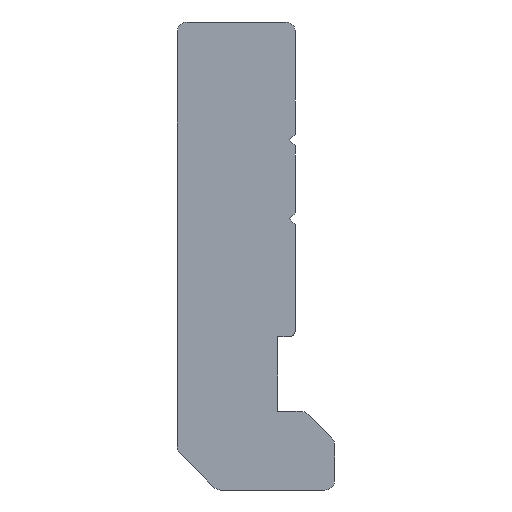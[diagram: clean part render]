
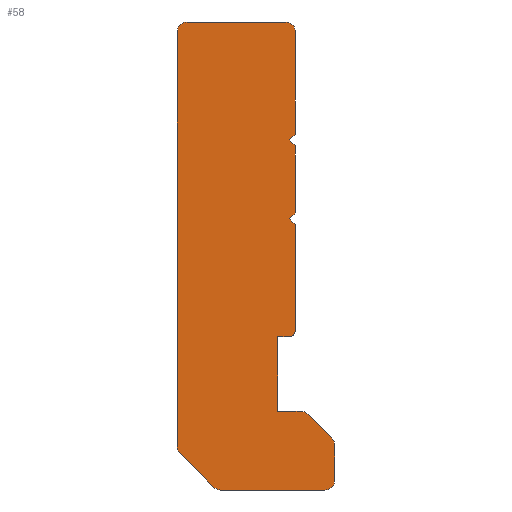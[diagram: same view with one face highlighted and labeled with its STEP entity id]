
A CAD part, left-side view. The second image highlights one B-rep face of the part: STEP entity #58.
In plain terms, the highlighted planar face has unit normal (-1, 0, 0).
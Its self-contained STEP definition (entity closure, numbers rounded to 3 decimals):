
#58=ADVANCED_FACE('',(#131),#132,.T.);
#131=FACE_OUTER_BOUND('',#216,.T.);
#132=PLANE('',#217);
#216=EDGE_LOOP('',(#315,#316,#317,#318,#319,#320,#321,#322,#323,#324,#325,#326,#327,#328,#329,#330,#331,#332,#333,#334,#335,#336,#337,#338));
#217=AXIS2_PLACEMENT_3D('',#339,#340,#341);
#315=ORIENTED_EDGE('',*,*,#551,.T.);
#316=ORIENTED_EDGE('',*,*,#552,.T.);
#317=ORIENTED_EDGE('',*,*,#548,.T.);
#318=ORIENTED_EDGE('',*,*,#553,.T.);
#319=ORIENTED_EDGE('',*,*,#554,.T.);
#320=ORIENTED_EDGE('',*,*,#555,.T.);
#321=ORIENTED_EDGE('',*,*,#556,.T.);
#322=ORIENTED_EDGE('',*,*,#557,.T.);
#323=ORIENTED_EDGE('',*,*,#543,.T.);
#324=ORIENTED_EDGE('',*,*,#558,.T.);
#325=ORIENTED_EDGE('',*,*,#559,.T.);
#326=ORIENTED_EDGE('',*,*,#560,.T.);
#327=ORIENTED_EDGE('',*,*,#561,.T.);
#328=ORIENTED_EDGE('',*,*,#562,.T.);
#329=ORIENTED_EDGE('',*,*,#563,.T.);
#330=ORIENTED_EDGE('',*,*,#564,.T.);
#331=ORIENTED_EDGE('',*,*,#565,.T.);
#332=ORIENTED_EDGE('',*,*,#566,.T.);
#333=ORIENTED_EDGE('',*,*,#567,.T.);
#334=ORIENTED_EDGE('',*,*,#568,.T.);
#335=ORIENTED_EDGE('',*,*,#533,.T.);
#336=ORIENTED_EDGE('',*,*,#569,.T.);
#337=ORIENTED_EDGE('',*,*,#538,.T.);
#338=ORIENTED_EDGE('',*,*,#570,.T.);
#339=CARTESIAN_POINT('',(0.,4.6,-5.593));
#340=DIRECTION('',(-1.0,0.0,0.0));
#341=DIRECTION('',(0.0,-1.0,0.0));
#533=EDGE_CURVE('',#634,#632,#635,.T.);
#538=EDGE_CURVE('',#643,#641,#644,.T.);
#543=EDGE_CURVE('',#652,#650,#653,.T.);
#548=EDGE_CURVE('',#661,#659,#662,.T.);
#551=EDGE_CURVE('',#665,#666,#667,.T.);
#552=EDGE_CURVE('',#666,#661,#668,.T.);
#553=EDGE_CURVE('',#659,#669,#670,.T.);
#554=EDGE_CURVE('',#669,#671,#672,.T.);
#555=EDGE_CURVE('',#671,#673,#674,.T.);
#556=EDGE_CURVE('',#673,#675,#676,.T.);
#557=EDGE_CURVE('',#675,#652,#677,.T.);
#558=EDGE_CURVE('',#650,#678,#679,.T.);
#559=EDGE_CURVE('',#678,#680,#681,.T.);
#560=EDGE_CURVE('',#680,#682,#683,.T.);
#561=EDGE_CURVE('',#682,#684,#685,.T.);
#562=EDGE_CURVE('',#684,#686,#687,.T.);
#563=EDGE_CURVE('',#686,#688,#689,.T.);
#564=EDGE_CURVE('',#688,#690,#691,.T.);
#565=EDGE_CURVE('',#690,#692,#693,.T.);
#566=EDGE_CURVE('',#692,#694,#695,.T.);
#567=EDGE_CURVE('',#694,#696,#697,.T.);
#568=EDGE_CURVE('',#696,#634,#698,.T.);
#569=EDGE_CURVE('',#632,#643,#699,.T.);
#570=EDGE_CURVE('',#641,#665,#700,.T.);
#632=VERTEX_POINT('',#779);
#634=VERTEX_POINT('',#782);
#635=LINE('',#783,#784);
#641=VERTEX_POINT('',#792);
#643=VERTEX_POINT('',#795);
#644=LINE('',#796,#797);
#650=VERTEX_POINT('',#805);
#652=VERTEX_POINT('',#808);
#653=LINE('',#809,#810);
#659=VERTEX_POINT('',#818);
#661=VERTEX_POINT('',#821);
#662=LINE('',#822,#823);
#665=VERTEX_POINT('',#827);
#666=VERTEX_POINT('',#828);
#667=LINE('',#829,#830);
#668=CIRCLE('',#831,0.5);
#669=VERTEX_POINT('',#832);
#670=CIRCLE('',#833,0.5);
#671=VERTEX_POINT('',#834);
#672=LINE('',#835,#836);
#673=VERTEX_POINT('',#837);
#674=CIRCLE('',#838,0.5);
#675=VERTEX_POINT('',#839);
#676=LINE('',#840,#841);
#677=CIRCLE('',#842,0.5);
#678=VERTEX_POINT('',#843);
#679=CIRCLE('',#844,0.5);
#680=VERTEX_POINT('',#845);
#681=LINE('',#846,#847);
#682=VERTEX_POINT('',#848);
#683=LINE('',#849,#850);
#684=VERTEX_POINT('',#851);
#685=LINE('',#852,#853);
#686=VERTEX_POINT('',#854);
#687=CIRCLE('',#855,0.3);
#688=VERTEX_POINT('',#856);
#689=LINE('',#857,#858);
#690=VERTEX_POINT('',#859);
#691=LINE('',#860,#861);
#692=VERTEX_POINT('',#862);
#693=LINE('',#863,#864);
#694=VERTEX_POINT('',#865);
#695=LINE('',#866,#867);
#696=VERTEX_POINT('',#868);
#697=LINE('',#869,#870);
#698=LINE('',#871,#872);
#699=CIRCLE('',#873,0.5);
#700=CIRCLE('',#874,0.5);
#779=CARTESIAN_POINT('',(0.,-0.9,15.5));
#782=CARTESIAN_POINT('',(0.,-0.9,10.3));
#783=CARTESIAN_POINT('',(0.,-0.9,10.3));
#784=VECTOR('',#978,1.0);
#792=CARTESIAN_POINT('',(0.,4.6,16.));
#795=CARTESIAN_POINT('',(0.,-0.4,16.));
#796=CARTESIAN_POINT('',(0.,-0.4,16.));
#797=VECTOR('',#982,1.0);
#805=CARTESIAN_POINT('',(0.,-1.546,-3.946));
#808=CARTESIAN_POINT('',(0.,-2.754,-5.154));
#809=CARTESIAN_POINT('',(0.,-2.754,-5.154));
#810=VECTOR('',#986,1.0);
#818=CARTESIAN_POINT('',(0.,3.246,-7.654));
#821=CARTESIAN_POINT('',(0.,4.954,-5.946));
#822=CARTESIAN_POINT('',(0.,4.954,-5.946));
#823=VECTOR('',#990,1.0);
#827=CARTESIAN_POINT('',(0.,5.1,15.5));
#828=CARTESIAN_POINT('',(0.,5.1,-5.593));
#829=CARTESIAN_POINT('',(0.,5.1,15.5));
#830=VECTOR('',#992,1.0);
#831=AXIS2_PLACEMENT_3D('',#993,#994,#995);
#832=CARTESIAN_POINT('',(0.,2.893,-7.8));
#833=AXIS2_PLACEMENT_3D('',#996,#997,#998);
#834=CARTESIAN_POINT('',(0.,-2.4,-7.8));
#835=CARTESIAN_POINT('',(0.,2.893,-7.8));
#836=VECTOR('',#999,1.0);
#837=CARTESIAN_POINT('',(0.,-2.9,-7.3));
#838=AXIS2_PLACEMENT_3D('',#1000,#1001,#1002);
#839=CARTESIAN_POINT('',(0.,-2.9,-5.507));
#840=CARTESIAN_POINT('',(0.,-2.9,-7.3));
#841=VECTOR('',#1003,1.0);
#842=AXIS2_PLACEMENT_3D('',#1004,#1005,#1006);
#843=CARTESIAN_POINT('',(0.,-1.193,-3.8));
#844=AXIS2_PLACEMENT_3D('',#1007,#1008,#1009);
#845=CARTESIAN_POINT('',(0.,0.,-3.8));
#846=CARTESIAN_POINT('',(0.,-1.193,-3.8));
#847=VECTOR('',#1010,1.0);
#848=CARTESIAN_POINT('',(0.,0.,0.));
#849=CARTESIAN_POINT('',(0.,0.,-3.8));
#850=VECTOR('',#1011,1.0);
#851=CARTESIAN_POINT('',(0.,-0.6,0.));
#852=CARTESIAN_POINT('',(0.,0.,0.));
#853=VECTOR('',#1012,1.0);
#854=CARTESIAN_POINT('',(0.,-0.9,0.3));
#855=AXIS2_PLACEMENT_3D('',#1013,#1014,#1015);
#856=CARTESIAN_POINT('',(0.,-0.9,5.695));
#857=CARTESIAN_POINT('',(0.,-0.9,0.3));
#858=VECTOR('',#1016,1.0);
#859=CARTESIAN_POINT('',(0.,-0.6,5.995));
#860=CARTESIAN_POINT('',(0.,-0.9,5.695));
#861=VECTOR('',#1017,1.0);
#862=CARTESIAN_POINT('',(0.,-0.9,6.295));
#863=CARTESIAN_POINT('',(0.,-0.6,5.995));
#864=VECTOR('',#1018,1.0);
#865=CARTESIAN_POINT('',(0.,-0.9,9.7));
#866=CARTESIAN_POINT('',(0.,-0.9,6.295));
#867=VECTOR('',#1019,1.0);
#868=CARTESIAN_POINT('',(0.,-0.6,10.));
#869=CARTESIAN_POINT('',(0.,-0.9,9.7));
#870=VECTOR('',#1020,1.0);
#871=CARTESIAN_POINT('',(0.,-0.6,10.));
#872=VECTOR('',#1021,1.0);
#873=AXIS2_PLACEMENT_3D('',#1022,#1023,#1024);
#874=AXIS2_PLACEMENT_3D('',#1025,#1026,#1027);
#978=DIRECTION('',(0.0,0.0,1.0));
#982=DIRECTION('',(0.0,1.0,0.0));
#986=DIRECTION('',(0.0,0.707,0.707));
#990=DIRECTION('',(0.0,-0.707,-0.707));
#992=DIRECTION('',(0.0,0.0,-1.0));
#993=CARTESIAN_POINT('',(0.,4.6,-5.593));
#994=DIRECTION('',(-1.0,0.0,0.0));
#995=DIRECTION('',(0.0,-1.0,0.0));
#996=CARTESIAN_POINT('',(0.,2.893,-7.3));
#997=DIRECTION('',(-1.0,0.0,0.0));
#998=DIRECTION('',(0.0,-1.0,0.0));
#999=DIRECTION('',(0.0,-1.0,0.0));
#1000=CARTESIAN_POINT('',(0.,-2.4,-7.3));
#1001=DIRECTION('',(-1.0,0.0,0.0));
#1002=DIRECTION('',(0.0,-1.0,0.0));
#1003=DIRECTION('',(0.0,0.0,1.0));
#1004=CARTESIAN_POINT('',(0.,-2.4,-5.507));
#1005=DIRECTION('',(-1.0,0.0,0.0));
#1006=DIRECTION('',(0.0,-1.0,0.0));
#1007=CARTESIAN_POINT('',(0.,-1.193,-4.3));
#1008=DIRECTION('',(-1.0,0.0,0.0));
#1009=DIRECTION('',(0.0,-1.0,0.0));
#1010=DIRECTION('',(0.0,1.0,0.));
#1011=DIRECTION('',(0.0,0.0,1.0));
#1012=DIRECTION('',(0.0,-1.0,0.));
#1013=CARTESIAN_POINT('',(0.,-0.6,0.3));
#1014=DIRECTION('',(-1.0,0.0,0.0));
#1015=DIRECTION('',(0.0,-1.0,0.0));
#1016=DIRECTION('',(0.0,0.,1.0));
#1017=DIRECTION('',(0.0,0.707,0.707));
#1018=DIRECTION('',(0.0,-0.707,0.707));
#1019=DIRECTION('',(0.0,0.0,1.0));
#1020=DIRECTION('',(0.0,0.707,0.707));
#1021=DIRECTION('',(0.0,-0.707,0.707));
#1022=CARTESIAN_POINT('',(0.,-0.4,15.5));
#1023=DIRECTION('',(-1.0,0.0,0.0));
#1024=DIRECTION('',(0.0,-1.0,0.0));
#1025=CARTESIAN_POINT('',(0.,4.6,15.5));
#1026=DIRECTION('',(-1.0,0.0,0.0));
#1027=DIRECTION('',(0.0,-1.0,0.0));
